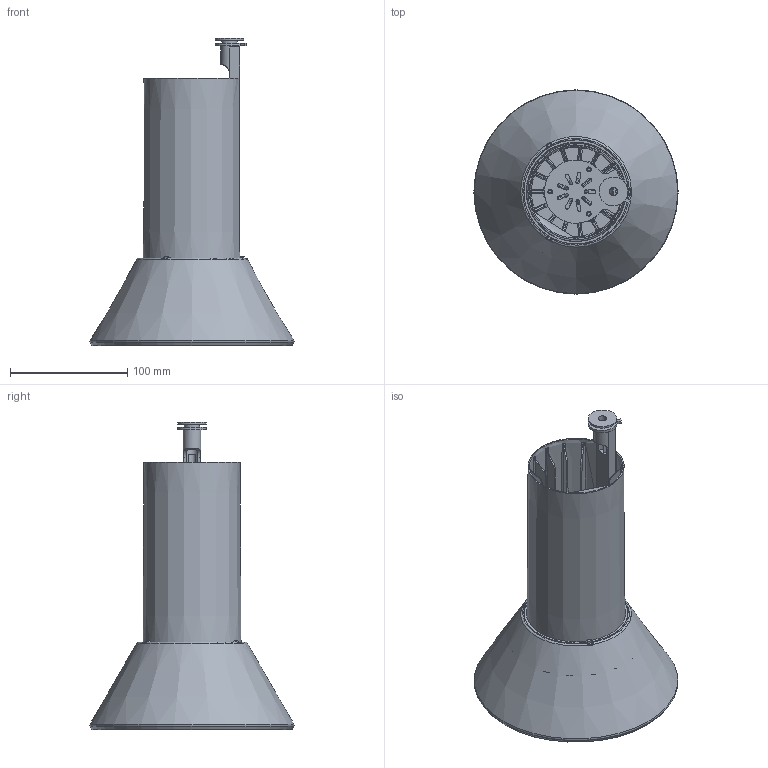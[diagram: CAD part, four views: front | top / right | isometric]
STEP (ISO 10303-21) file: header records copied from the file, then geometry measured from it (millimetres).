
FILE_DESCRIPTION(/* description */ ('STEP AP214'),/* implementation_level */ '2;1');
FILE_NAME(/* name */ 'Casto modules - Conic.step',/* time_stamp */ '2026-10-13T10:03:22+02:00',/* author */ (''),/* organization */ (''),/* preprocessor_version */ 'ST-DEVELOPER v20.2',/* originating_system */ 'Autodesk Translation Framework v15.15.0.0',/* authorisation */ '');
FILE_SCHEMA (('AUTOMOTIVE_DESIGN { 1 0 10303 214 3 1 1 }'));
Length unit declared in the file: millimetre
Products named in the file (14): Expo wysoki UGR; expo; nypel track; DR0002489A1007_forma1; 92.70.131.00; DR0002489A1005_forma1; DR0002489A1003_forma1; 2-1674-M; DR0002489A1004_forma1; 16208807_02_(LES15).stp; 2026-08-05-12-24-31-074; 2026-08-13-05-20-13-833; 2026-08-13-03-34-55-201; 2026-08-11-08-22-23-976
Assembly tree (13 placements, depth 4):
  Expo wysoki UGR
    expo
      nypel track
      DR0002489A1007_forma1
      92.70.131.00
      DR0002489A1005_forma1
      DR0002489A1003_forma1
      2-1674-M
      DR0002489A1004_forma1
      16208807_02_(LES15).stp
    2026-08-05-12-24-31-074
      2026-08-13-05-20-13-833
        2026-08-13-03-34-55-201
    2026-08-11-08-22-23-976
Bounding box: 174.39 x 174.39 x 262.52 mm (x, y, z)
Volume: 311903.9 mm3; surface area: 283675.8 mm2
Topology: 13 solids, 13 shells, 1022 faces, 2833 edges, 1849 vertices
Faces by surface type: cylinder 472, plane 235, bspline 232, cone 44, torus 33, sphere 6
Full cylindrical faces by diameter (mm): 0.725 x1, 2.542 x48, 2.759 x20, 3.3 x74, 4 x3, 4.2 x3, 6 x1, 7 x2, 8.917 x9, 10 x11, 13 x1, 15 x2, 16.5 x1, 17.5 x1, 24.5 x1, 45 x1, 74 x1, 75 x1, 76 x1, 77.835 x14, 80 x15, 84.9 x2, 88.8 x1, 89.1 x1
Entity records: 109783 total; most frequent: CARTESIAN_POINT 85762, ORIENTED_EDGE 5664, DIRECTION 4069, EDGE_CURVE 2832, VERTEX_POINT 1849, AXIS2_PLACEMENT_3D 1543, EDGE_LOOP 1091, FACE_OUTER_BOUND 1022
